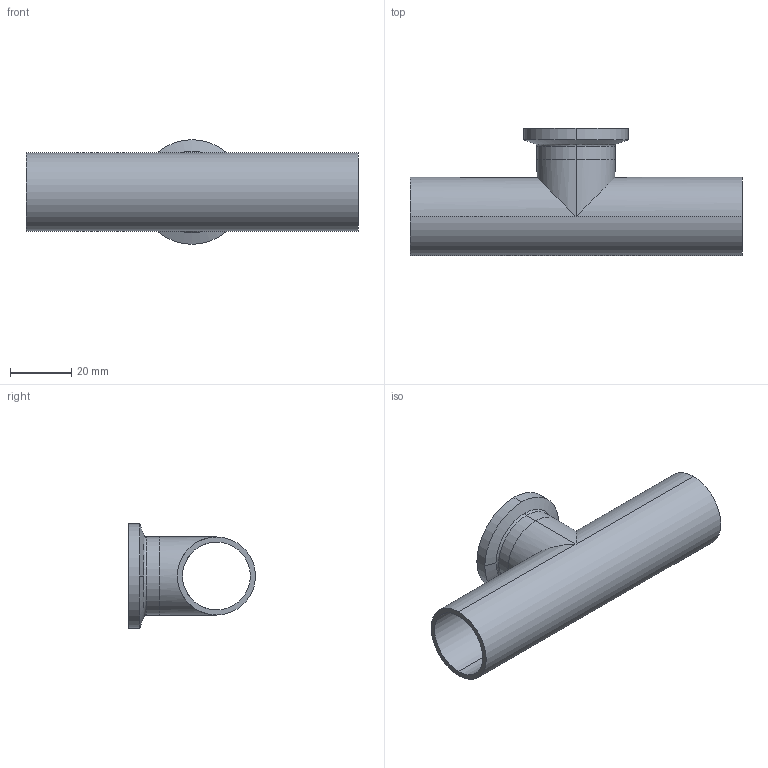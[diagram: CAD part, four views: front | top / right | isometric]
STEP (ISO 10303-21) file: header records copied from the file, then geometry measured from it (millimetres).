
FILE_DESCRIPTION (( 'STEP AP214' ), '1' );
FILE_NAME ('TE7WWCS6L1.0-.._Type A.STEP', '2016-05-24T12:07:43', ( 'eran' ), ( '' ), 'SwSTEP 2.0', 'SolidWorks 2016', '' );
FILE_SCHEMA (( 'AUTOMOTIVE_DESIGN' ));
Length unit declared in the file: millimetre
Products named in the file (1): TE7WWCS6L1.0-.._Type A
Bounding box: 108 x 41.3 x 34.01 mm (x, y, z)
Volume: 16232.7 mm3; surface area: 19663.9 mm2
Topology: 2 solids, 2 shells, 36 faces, 80 edges, 48 vertices
Faces by surface type: cylinder 18, bspline 8, plane 6, cone 4
Entity records: 1147 total; most frequent: CARTESIAN_POINT 309, DIRECTION 178, ORIENTED_EDGE 160, EDGE_CURVE 80, AXIS2_PLACEMENT_3D 77, CIRCLE 48, VERTEX_POINT 48, EDGE_LOOP 42
